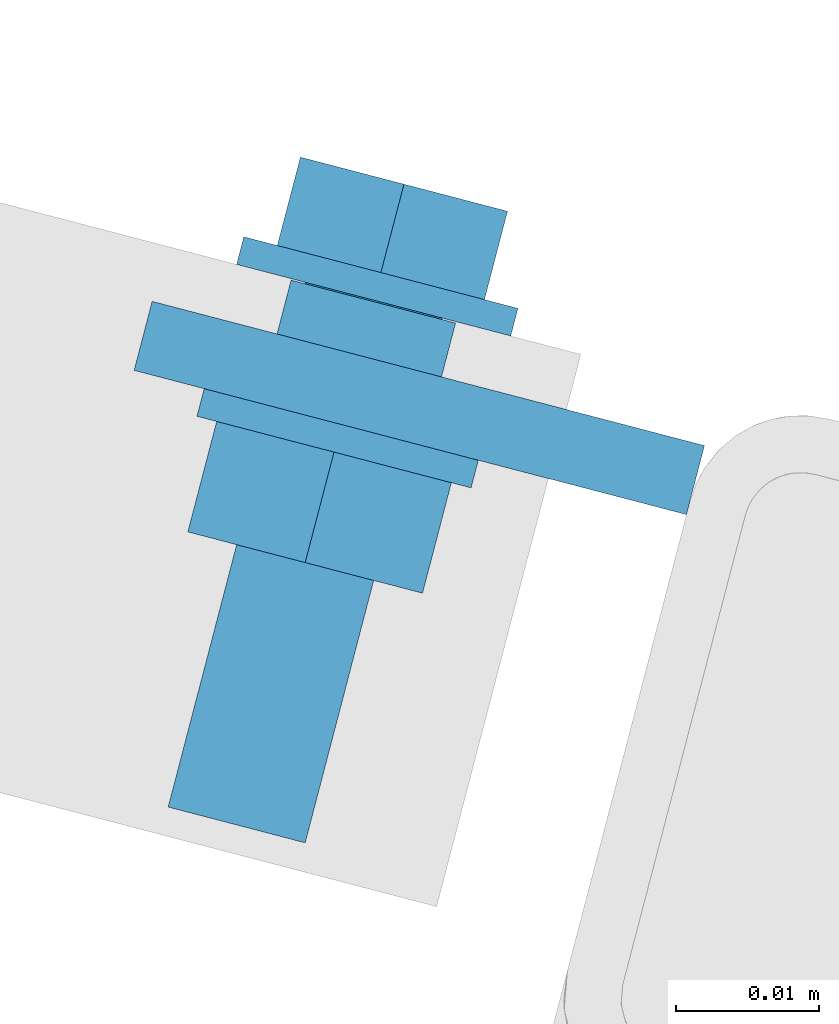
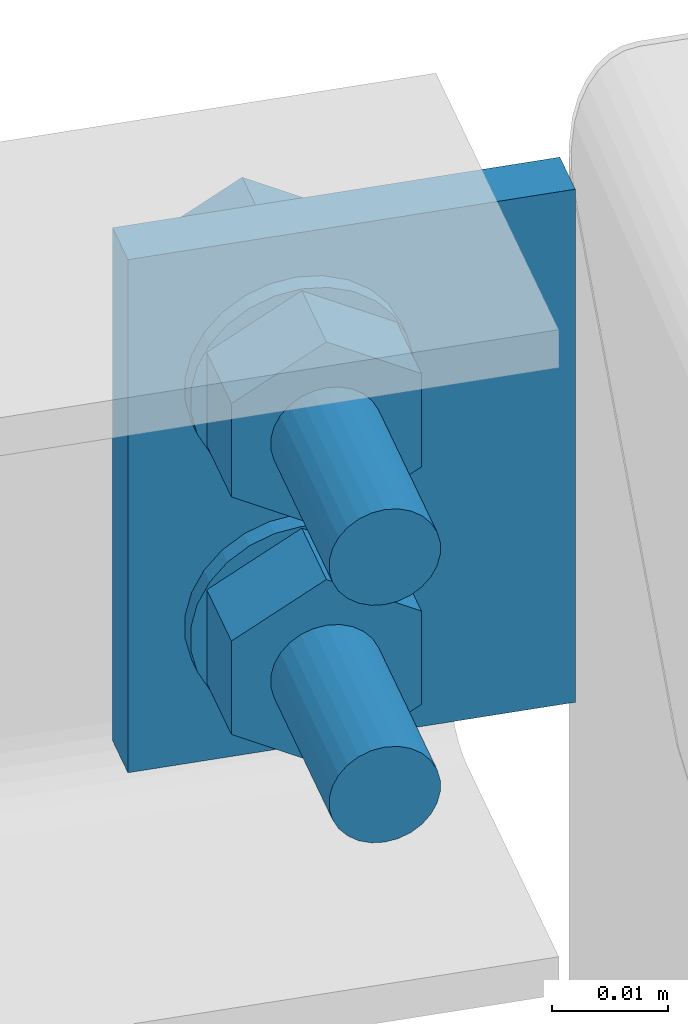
# One storey, part 160 of 169: 1 discrete accessory, 1 mechanical fastener, 2 elements without a shape of their own.
"""IFC2X3 building model written with IfcOpenShell, lengths in millimetres."""

from ifc_helpers import new_model, si_unit, frame, origin_with_axes, origin_2d_with_axis, place, context, subcontext, project, spatial, polyline, circle, outline, extrude, source, transform, mapped, material, type_object, element, aggregate, save


model = new_model("IFC2X3")

# Units and contexts
model_context = context("Model", 3, precision=1e-05, world=origin_with_axes())
body_context = subcontext(model_context, "Body", "Model", "MODEL_VIEW")
ifc_project = project(units=[si_unit("LENGTHUNIT", "METRE", prefix="MILLI"), si_unit("AREAUNIT", "SQUARE_METRE"), si_unit("VOLUMEUNIT", "CUBIC_METRE"), si_unit("MASSUNIT", "GRAM", prefix="KILO"), si_unit("TIMEUNIT", "SECOND"), si_unit("PLANEANGLEUNIT", "RADIAN"), si_unit("SOLIDANGLEUNIT", "STERADIAN"), si_unit("THERMODYNAMICTEMPERATUREUNIT", "DEGREE_CELSIUS"), si_unit("LUMINOUSINTENSITYUNIT", "LUMEN")], contexts=[model_context])

# Site, building, storey
site_placement = place(None, origin_with_axes())
site = spatial("IfcSite", under=ifc_project, at=site_placement, Name="Undefined", CompositionType="ELEMENT")
building_placement = place(site_placement, origin_with_axes())
building = spatial("IfcBuilding", under=site, at=building_placement, Name="Undefined", CompositionType="ELEMENT")
storey_placement = place(building_placement, origin_with_axes())
storey = spatial("IfcBuildingStorey", under=building, at=storey_placement, Name="Undefined", CompositionType="ELEMENT", Elevation=0.0)

# Assembly, discrete accessory
assembly_1_placement = place(storey_placement, origin_with_axes())
assembly_1 = element("IfcElementAssembly", 1, at=assembly_1_placement, inside=storey, Name="Steel Assembly", AssemblyPlace="NOTDEFINED", PredefinedType="RIGID_FRAME")
ifc_material_1 = material(Name="STEEL/S235")
discrete_accessory_type_1 = type_object("IfcDiscreteAccessoryType", Name="BLACHA")
discrete_accessory_placement = place(assembly_1_placement, frame((-5137.64382568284, 18663.0862568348, 13918.4856094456), z_axis=(-0.252628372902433, -0.967563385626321, 0.0), x_axis=(0.0, 0.0, 1.0)))
discrete_accessory = element("IfcDiscreteAccessory", 2, at=discrete_accessory_placement, type_object=discrete_accessory_type_1, material=ifc_material_1, Name="BLACHA", ObjectType="BL40X5", context=body_context, shape_type="SweptSolid", body=[
    extrude(outline(polyline([(3.27418092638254e-11, 20.0000000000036), (54.0000420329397, 19.9999999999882), (54.0000420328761, -20.0000000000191), (-3.27418092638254e-11, -20.0000000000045), (3.27418092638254e-11, 20.0000000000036)])), frame((6.80888809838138e-19, -2.87858853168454e-21, -2.49999999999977), z_axis=(0.0, 0.0, 1.0), x_axis=(1.0, 0.0, 0.0)), (0.0, 0.0, 1.0), 5.0),
])
aggregate(assembly_1, [discrete_accessory])

# Assembly, mechanical fastener
assembly_2_placement = place(storey_placement, origin_with_axes())
assembly_2 = element("IfcElementAssembly", 3, at=assembly_2_placement, inside=storey, Name="Steel Assembly", AssemblyPlace="NOTDEFINED", PredefinedType="RIGID_FRAME")
ifc_material_2 = material(Name="Undefined")
discrete_accessory_type_2 = type_object("IfcDiscreteAccessoryType", Name="Bolt assembly")
shared_shape = source(origin_with_axes(), body_context, "Body", "SweptSolid", [
    extrude(circle(Radius=6.0, at=origin_2d_with_axis()), frame((0.0, -0.100000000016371, 0.0), z_axis=(0.0, 1.0, 0.0), x_axis=(1.0, 0.0, 0.0)), (0.0, 0.0, 1.0), 5.1),
    extrude(circle(Radius=6.0, at=origin_2d_with_axis()), frame((0.0, -3.90000000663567, 0.0), z_axis=(0.0, 1.0, 0.0), x_axis=(1.0, 0.0, 0.0)), (0.0, 0.0, 1.0), 4.0),
    extrude(outline(polyline([(8.66025403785, 0.0), (4.330127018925, 7.50000000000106), (-4.330127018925, 7.50000000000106), (-8.66025403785, 0.0), (-4.330127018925, -7.50000000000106), (4.330127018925, -7.50000000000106), (8.66025403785, 0.0)])), frame((0.0, -12.4000001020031, 0.0), z_axis=(0.0, 1.0, 0.0), x_axis=(1.0, 0.0, 0.0)), (0.0, 0.0, 1.0), 6.4),
    extrude(circle(Radius=5.0, at=origin_2d_with_axis()), frame((0.0, -6.00000000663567, 0.0), z_axis=(0.0, 1.0, 0.0), x_axis=(1.0, 0.0, 0.0)), (0.0, 0.0, 1.0), 40.0),
    extrude(circle(Radius=10.0, at=origin_2d_with_axis()), frame((0.0, -6.00000000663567, 0.0), z_axis=(0.0, 1.0, 0.0), x_axis=(1.0, 0.0, 0.0)), (0.0, 0.0, 1.0), 2.0),
    extrude(circle(Radius=10.0, at=origin_2d_with_axis()), frame((0.0, 4.99997856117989, 0.0), z_axis=(0.0, 1.0, 0.0), x_axis=(1.0, 0.0, 0.0)), (0.0, 0.0, 1.0), 2.0),
    extrude(outline(polyline([(9.81495457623, 0.0), (4.907477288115, 8.5000000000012), (-4.907477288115, 8.5000000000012), (-9.81495457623, 0.0), (-4.907477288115, -8.5000000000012), (4.907477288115, -8.5000000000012), (9.81495457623, 0.0)])), frame((0.0, 6.99997856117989, 0.0), z_axis=(0.0, 1.0, 0.0), x_axis=(1.0, 0.0, 0.0)), (0.0, 0.0, 1.0), 8.0),
])
mechanical_fastener_placement = place(assembly_2_placement, frame((-5117.66098703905, 18660.4525978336, 13980.4856094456), z_axis=(-0.967563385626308, 0.252628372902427, -1.72000000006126e-07), x_axis=(-2.54700353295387e-10, 0.0, -1.0)))
mechanical_fastener = element("IfcMechanicalFastener", 4, at=mechanical_fastener_placement, type_object=discrete_accessory_type_2, material=ifc_material_2, Name="Bolt assembly", NominalDiameter=10.0, NominalLength=40.0, context=body_context, shape_type="MappedRepresentation", body=[
    mapped(shared_shape, transform((22.5000209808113, 9.45874489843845e-11, 25.0000000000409))),
    mapped(shared_shape, transform((47.5000228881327, 1.23691279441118e-10, 25.0000000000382))),
])
aggregate(assembly_2, [mechanical_fastener])

save(model, "model.ifc")
